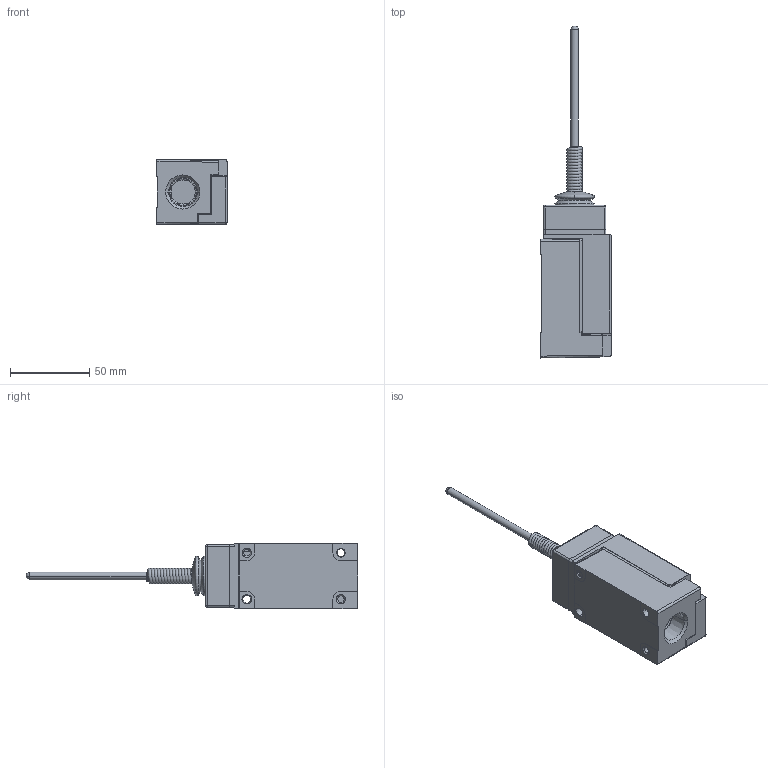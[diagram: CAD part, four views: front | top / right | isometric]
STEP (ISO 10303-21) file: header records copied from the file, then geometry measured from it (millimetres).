
FILE_DESCRIPTION((''),'2;1');
FILE_NAME('LSJ1A-7N','2012-12-06T',('E522935'),(''),'PRO/ENGINEER BY PARAMETRIC TECHNOLOGY CORPORATION, 2009460','PRO/ENGINEER BY PARAMETRIC TECHNOLOGY CORPORATION, 2009460','');
FILE_SCHEMA(('CONFIG_CONTROL_DESIGN'));
Length unit declared in the file: inch
Products named in the file (1): LSJ1A-7N
Bounding box: 44.32 x 210.03 x 41.15 mm (x, y, z)
Volume: 165589.9 mm3; surface area: 31128.7 mm2
Topology: 2 solids, 2 shells, 482 faces, 1201 edges, 737 vertices
Faces by surface type: plane 244, cylinder 146, cone 33, bspline 32, sphere 19, torus 8
Entity records: 22899 total; most frequent: CARTESIAN_POINT 11575, ORIENTED_EDGE 2398, DIRECTION 2295, EDGE_CURVE 1199, AXIS2_PLACEMENT_3D 817, VERTEX_POINT 737, VECTOR 661, LINE 661
